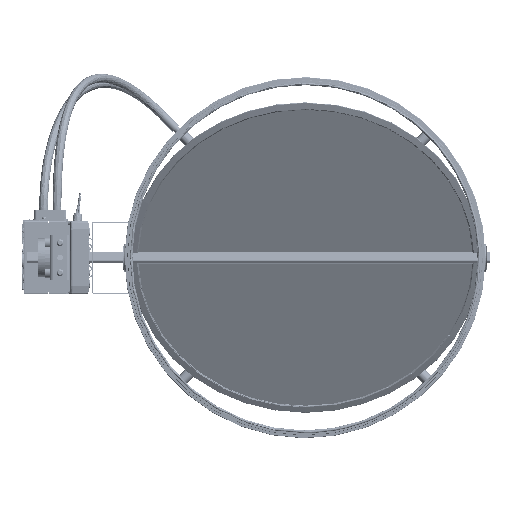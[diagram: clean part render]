
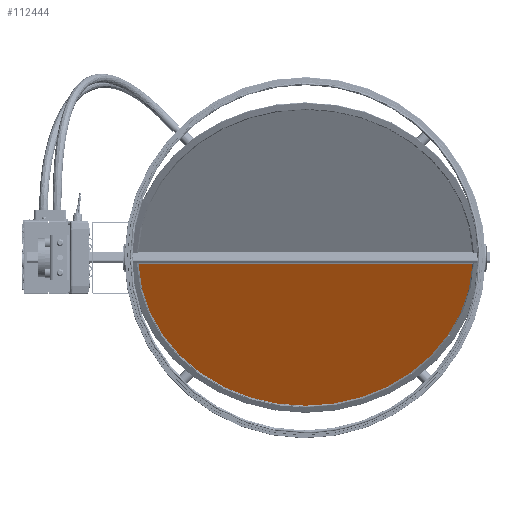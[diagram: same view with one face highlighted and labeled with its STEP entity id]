
A CAD part, left-side view. The second image highlights one B-rep face of the part: STEP entity #112444.
In plain terms, the highlighted planar face has unit normal (-0.885, 0, -0.465) as drawn and (0, 0, -1) by its records, which use the part's own axes.
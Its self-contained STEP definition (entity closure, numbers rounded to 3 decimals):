
#21192 = AXIS2_PLACEMENT_3D ( 'NONE', #291329, #295111, #32230 ) ;
#32230 = DIRECTION ( 'NONE',  ( -1., 0., 0. ) ) ;
#32869 = CARTESIAN_POINT ( 'NONE',  ( 6.071, 149.734, 0. ) ) ;
#50836 = CARTESIAN_POINT ( 'NONE',  ( 6.071, 600., 0. ) ) ;
#58250 = VERTEX_POINT ( 'NONE', #371501 ) ;
#91272 = ORIENTED_EDGE ( 'NONE', *, *, #337978, .F. ) ;
#110260 = FACE_OUTER_BOUND ( 'NONE', #236521, .T. ) ;
#112444 = ADVANCED_FACE ( 'NONE', ( #110260 ), #229210, .F. ) ;
#130772 = DIRECTION ( 'NONE',  ( 0., -1., 0. ) ) ;
#133892 = VERTEX_POINT ( 'NONE', #32869 ) ;
#153981 = CARTESIAN_POINT ( 'NONE',  ( 6.071, 600., 0. ) ) ;
#189867 = VECTOR ( 'NONE', #130772, 1000. ) ;
#205782 = CIRCLE ( 'NONE', #21192, 150.388 ) ;
#227306 = DIRECTION ( 'NONE',  ( 1., 0., 0. ) ) ;
#229210 = PLANE ( 'NONE',  #365443 ) ;
#236521 = EDGE_LOOP ( 'NONE', ( #91272, #359648 ) ) ;
#276062 = EDGE_CURVE ( 'NONE', #58250, #133892, #205782, .T. ) ;
#291329 = CARTESIAN_POINT ( 'NONE',  ( 0., 300., 0. ) ) ;
#295111 = DIRECTION ( 'NONE',  ( 0., 0., -1. ) ) ;
#305341 = LINE ( 'NONE', #153981, #189867 ) ;
#337978 = EDGE_CURVE ( 'NONE', #58250, #133892, #305341, .T. ) ;
#359648 = ORIENTED_EDGE ( 'NONE', *, *, #276062, .T. ) ;
#365443 = AXIS2_PLACEMENT_3D ( 'NONE', #50836, #376775, #227306 ) ;
#371501 = CARTESIAN_POINT ( 'NONE',  ( 6.071, 450.266, 0. ) ) ;
#376775 = DIRECTION ( 'NONE',  ( 0., 0., 1. ) ) ;
